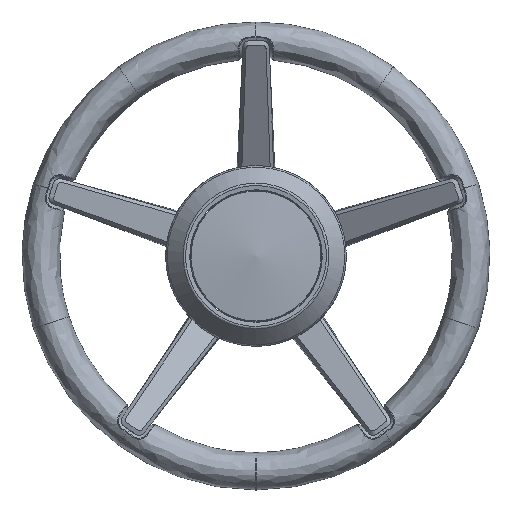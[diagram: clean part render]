
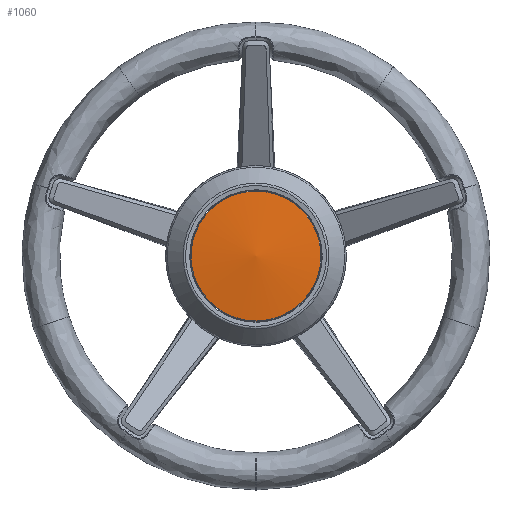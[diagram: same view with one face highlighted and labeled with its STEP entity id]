
A CAD part, front view. The second image highlights one B-rep face of the part: STEP entity #1060.
In plain terms, the highlighted free-form (B-spline) face has degree [2, 2] with [9, 5] control points.
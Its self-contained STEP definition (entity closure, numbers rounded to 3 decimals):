
#1060=ADVANCED_FACE('',(#1801),#11327,.T.);
#1801=FACE_OUTER_BOUND('',#2554,.T.);
#2554=EDGE_LOOP('',(#5418));
#5418=ORIENTED_EDGE('',*,*,#7591,.T.);
#7591=EDGE_CURVE('',#10666,#10666,#8863,.T.);
#8863=(
BOUNDED_CURVE()
B_SPLINE_CURVE(2,(#72813,#72814,#72815,#72816,#72817,#72818,#72819,#72820,
#72821),.UNSPECIFIED.,.T.,.F.)
B_SPLINE_CURVE_WITH_KNOTS((3,2,2,2,3),(0.,1.571,3.142,
4.712,6.283),.UNSPECIFIED.)
CURVE()
GEOMETRIC_REPRESENTATION_ITEM()
RATIONAL_B_SPLINE_CURVE((1.,0.707,1.,0.707,
1.,0.707,1.,0.707,
1.))
REPRESENTATION_ITEM('')
);
#10666=VERTEX_POINT('',#72810);
#11327=(
BOUNDED_SURFACE()
B_SPLINE_SURFACE(2,2,((#72720,#72721,#72722,#72723,#72724),(#72725,#72726,
#72727,#72728,#72729),(#72730,#72731,#72732,#72733,#72734),(#72735,#72736,
#72737,#72738,#72739),(#72740,#72741,#72742,#72743,#72744),(#72745,#72746,
#72747,#72748,#72749),(#72750,#72751,#72752,#72753,#72754),(#72755,#72756,
#72757,#72758,#72759),(#72760,#72761,#72762,#72763,#72764)),
 .UNSPECIFIED.,.T.,.F.,.F.)
B_SPLINE_SURFACE_WITH_KNOTS((3,2,2,2,3),(3,2,3),(0.,392.699,785.398,
1178.097,1570.796),(0.,392.699,785.398),
 .UNSPECIFIED.)
GEOMETRIC_REPRESENTATION_ITEM()
RATIONAL_B_SPLINE_SURFACE(((1.,0.707,1.,0.707,1.),
(0.707,0.5,0.707,0.5,0.707),(1.,0.707,
1.,0.707,1.),(0.707,0.5,0.707,0.5,0.707),
(1.,0.707,1.,0.707,1.),(0.707,0.5,0.707,
0.5,0.707),(1.,0.707,1.,0.707,1.),(0.707,
0.5,0.707,0.5,0.707),(1.,0.707,1.,0.707,
1.)))
REPRESENTATION_ITEM('')
SURFACE()
);
#72720=CARTESIAN_POINT('',(-250.,185.3,0.));
#72721=CARTESIAN_POINT('',(-250.,185.3,250.));
#72722=CARTESIAN_POINT('',(0.,185.3,250.));
#72723=CARTESIAN_POINT('',(250.,185.3,250.));
#72724=CARTESIAN_POINT('',(250.,185.3,0.));
#72725=CARTESIAN_POINT('',(-250.,185.3,0.));
#72726=CARTESIAN_POINT('',(-250.,-64.7,250.));
#72727=CARTESIAN_POINT('',(0.,-64.7,250.));
#72728=CARTESIAN_POINT('',(250.,-64.7,250.));
#72729=CARTESIAN_POINT('',(250.,185.3,0.));
#72730=CARTESIAN_POINT('',(-250.,185.3,0.));
#72731=CARTESIAN_POINT('',(-250.,-64.7,0.));
#72732=CARTESIAN_POINT('',(0.,-64.7,0.));
#72733=CARTESIAN_POINT('',(250.,-64.7,0.));
#72734=CARTESIAN_POINT('',(250.,185.3,0.));
#72735=CARTESIAN_POINT('',(-250.,185.3,0.));
#72736=CARTESIAN_POINT('',(-250.,-64.7,-250.));
#72737=CARTESIAN_POINT('',(0.,-64.7,-250.));
#72738=CARTESIAN_POINT('',(250.,-64.7,-250.));
#72739=CARTESIAN_POINT('',(250.,185.3,0.));
#72740=CARTESIAN_POINT('',(-250.,185.3,0.));
#72741=CARTESIAN_POINT('',(-250.,185.3,-250.));
#72742=CARTESIAN_POINT('',(0.,185.3,-250.));
#72743=CARTESIAN_POINT('',(250.,185.3,-250.));
#72744=CARTESIAN_POINT('',(250.,185.3,0.));
#72745=CARTESIAN_POINT('',(-250.,185.3,0.));
#72746=CARTESIAN_POINT('',(-250.,435.3,-250.));
#72747=CARTESIAN_POINT('',(0.,435.3,-250.));
#72748=CARTESIAN_POINT('',(250.,435.3,-250.));
#72749=CARTESIAN_POINT('',(250.,185.3,0.));
#72750=CARTESIAN_POINT('',(-250.,185.3,0.));
#72751=CARTESIAN_POINT('',(-250.,435.3,0.));
#72752=CARTESIAN_POINT('',(0.,435.3,0.));
#72753=CARTESIAN_POINT('',(250.,435.3,0.));
#72754=CARTESIAN_POINT('',(250.,185.3,0.));
#72755=CARTESIAN_POINT('',(-250.,185.3,0.));
#72756=CARTESIAN_POINT('',(-250.,435.3,250.));
#72757=CARTESIAN_POINT('',(0.,435.3,250.));
#72758=CARTESIAN_POINT('',(250.,435.3,250.));
#72759=CARTESIAN_POINT('',(250.,185.3,0.));
#72760=CARTESIAN_POINT('',(-250.,185.3,0.));
#72761=CARTESIAN_POINT('',(-250.,185.3,250.));
#72762=CARTESIAN_POINT('',(0.,185.3,250.));
#72763=CARTESIAN_POINT('',(250.,185.3,250.));
#72764=CARTESIAN_POINT('',(250.,185.3,0.));
#72810=CARTESIAN_POINT('',(0.,-59.941,-48.546));
#72813=CARTESIAN_POINT('',(0.,-59.941,-48.546));
#72814=CARTESIAN_POINT('',(48.546,-59.941,-48.546));
#72815=CARTESIAN_POINT('',(48.546,-59.941,0.));
#72816=CARTESIAN_POINT('',(48.546,-59.941,48.546));
#72817=CARTESIAN_POINT('',(0.,-59.941,48.546));
#72818=CARTESIAN_POINT('',(-48.546,-59.941,48.546));
#72819=CARTESIAN_POINT('',(-48.546,-59.941,0.));
#72820=CARTESIAN_POINT('',(-48.546,-59.941,-48.546));
#72821=CARTESIAN_POINT('',(0.,-59.941,-48.546));
